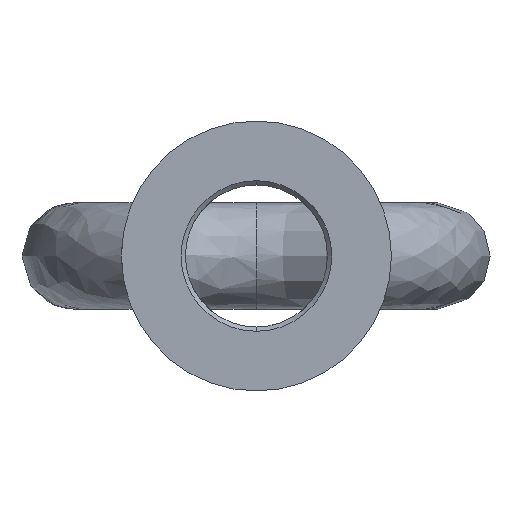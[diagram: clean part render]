
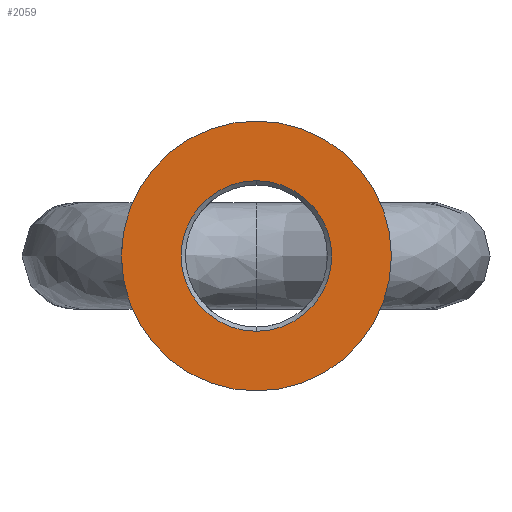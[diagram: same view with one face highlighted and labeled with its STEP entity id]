
A CAD part, front view. The second image highlights one B-rep face of the part: STEP entity #2059.
In plain terms, the highlighted planar face has unit normal (0, -1, 0).
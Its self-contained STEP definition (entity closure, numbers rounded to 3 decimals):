
#79 = DIRECTION ( 'NONE',  ( 0., 0., -1. ) ) ;
#164 = AXIS2_PLACEMENT_3D ( 'NONE', #1014, #3008, #2157 ) ;
#181 = ORIENTED_EDGE ( 'NONE', *, *, #739, .F. ) ;
#230 = DIRECTION ( 'NONE',  ( 0., 1., 0. ) ) ;
#312 = EDGE_CURVE ( 'NONE', #2484, #3336, #1771, .T. ) ;
#442 = CARTESIAN_POINT ( 'NONE',  ( 0., 0., 0. ) ) ;
#492 = DIRECTION ( 'NONE',  ( 0., -1., 0. ) ) ;
#528 = FACE_OUTER_BOUND ( 'NONE', #2799, .T. ) ;
#605 = AXIS2_PLACEMENT_3D ( 'NONE', #1110, #492, #1633 ) ;
#674 = CARTESIAN_POINT ( 'NONE',  ( 0., 0., 0. ) ) ;
#723 = EDGE_LOOP ( 'NONE', ( #2598, #762 ) ) ;
#739 = EDGE_CURVE ( 'NONE', #2700, #1332, #2439, .T. ) ;
#762 = ORIENTED_EDGE ( 'NONE', *, *, #2961, .T. ) ;
#775 = FACE_BOUND ( 'NONE', #723, .T. ) ;
#995 = AXIS2_PLACEMENT_3D ( 'NONE', #1058, #230, #1319 ) ;
#1014 = CARTESIAN_POINT ( 'NONE',  ( 0., 0., 0. ) ) ;
#1058 = CARTESIAN_POINT ( 'NONE',  ( 0., 0., 0. ) ) ;
#1110 = CARTESIAN_POINT ( 'NONE',  ( 0., 0., 0. ) ) ;
#1319 = DIRECTION ( 'NONE',  ( 0., 0., 1. ) ) ;
#1332 = VERTEX_POINT ( 'NONE', #1610 ) ;
#1403 = CARTESIAN_POINT ( 'NONE',  ( 0., 0., 53. ) ) ;
#1584 = AXIS2_PLACEMENT_3D ( 'NONE', #674, #2080, #79 ) ;
#1610 = CARTESIAN_POINT ( 'NONE',  ( 0., 0., -95. ) ) ;
#1633 = DIRECTION ( 'NONE',  ( 0., 0., -1. ) ) ;
#1727 = CARTESIAN_POINT ( 'NONE',  ( 0., 0., 95. ) ) ;
#1771 = CIRCLE ( 'NONE', #164, 53. ) ;
#2059 = ADVANCED_FACE ( 'NONE', ( #775, #528 ), #2528, .T. ) ;
#2072 = CIRCLE ( 'NONE', #1584, 53. ) ;
#2080 = DIRECTION ( 'NONE',  ( 0., 1., 0. ) ) ;
#2157 = DIRECTION ( 'NONE',  ( 0., 0., -1. ) ) ;
#2208 = ORIENTED_EDGE ( 'NONE', *, *, #3171, .F. ) ;
#2439 = CIRCLE ( 'NONE', #995, 95. ) ;
#2484 = VERTEX_POINT ( 'NONE', #3270 ) ;
#2528 = PLANE ( 'NONE',  #605 ) ;
#2598 = ORIENTED_EDGE ( 'NONE', *, *, #312, .T. ) ;
#2700 = VERTEX_POINT ( 'NONE', #1727 ) ;
#2722 = DIRECTION ( 'NONE',  ( 0., 0., 1. ) ) ;
#2799 = EDGE_LOOP ( 'NONE', ( #2208, #181 ) ) ;
#2961 = EDGE_CURVE ( 'NONE', #3336, #2484, #2072, .T. ) ;
#3008 = DIRECTION ( 'NONE',  ( 0., 1., 0. ) ) ;
#3171 = EDGE_CURVE ( 'NONE', #1332, #2700, #3699, .T. ) ;
#3270 = CARTESIAN_POINT ( 'NONE',  ( 0., 0., -53. ) ) ;
#3336 = VERTEX_POINT ( 'NONE', #1403 ) ;
#3677 = DIRECTION ( 'NONE',  ( 0., 1., 0. ) ) ;
#3699 = CIRCLE ( 'NONE', #3708, 95. ) ;
#3708 = AXIS2_PLACEMENT_3D ( 'NONE', #442, #3677, #2722 ) ;
